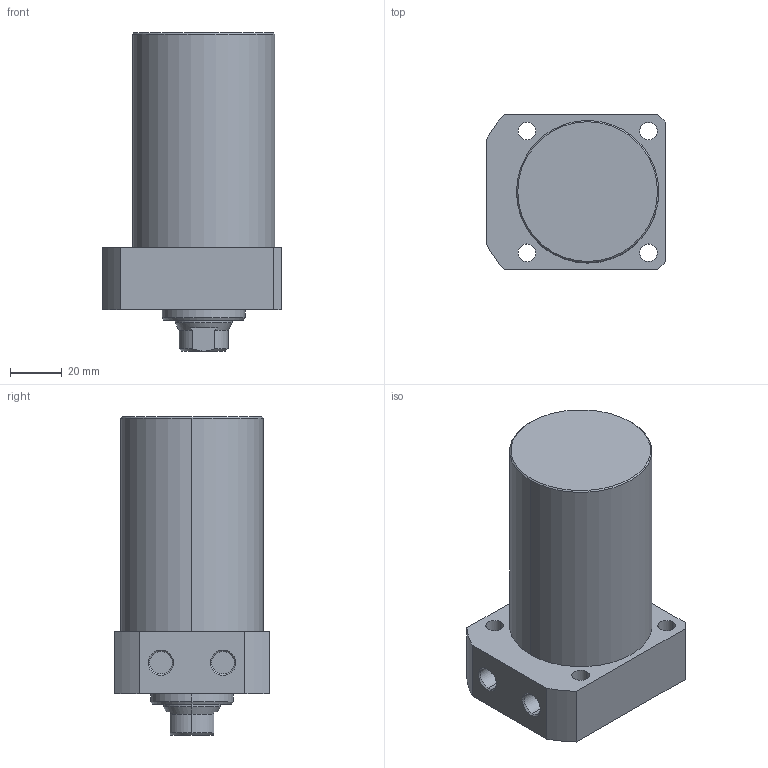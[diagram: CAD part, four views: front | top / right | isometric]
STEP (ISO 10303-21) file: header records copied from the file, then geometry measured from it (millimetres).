
FILE_DESCRIPTION (( 'STEP AP203' ), '1' );
FILE_NAME ('CLLR-055CA-070.STEP', '2019-12-19T07:31:30', ( '' ), ( '' ), 'SwSTEP 2.0', 'SolidWorks 2015', '' );
FILE_SCHEMA (( 'CONFIG_CONTROL_DESIGN' ));
Length unit declared in the file: millimetre
Products named in the file (1): CLLR-055CA-070
Bounding box: 69 x 60 x 123 mm (x, y, z)
Volume: 294830.6 mm3; surface area: 32523.4 mm2
Topology: 1 solids, 1 shells, 65 faces, 151 edges, 94 vertices
Faces by surface type: cylinder 29, plane 19, cone 17
Entity records: 1967 total; most frequent: CARTESIAN_POINT 349, DIRECTION 348, ORIENTED_EDGE 298, EDGE_CURVE 149, AXIS2_PLACEMENT_3D 141, VERTEX_POINT 94, EDGE_LOOP 81, CIRCLE 75
